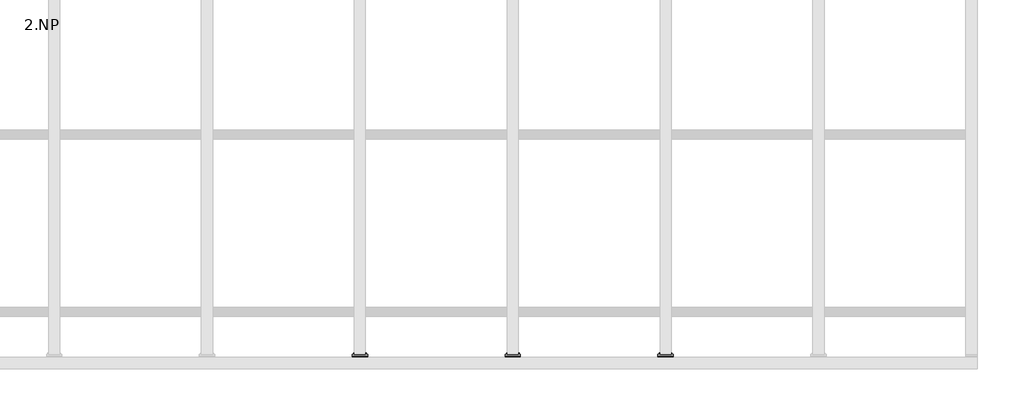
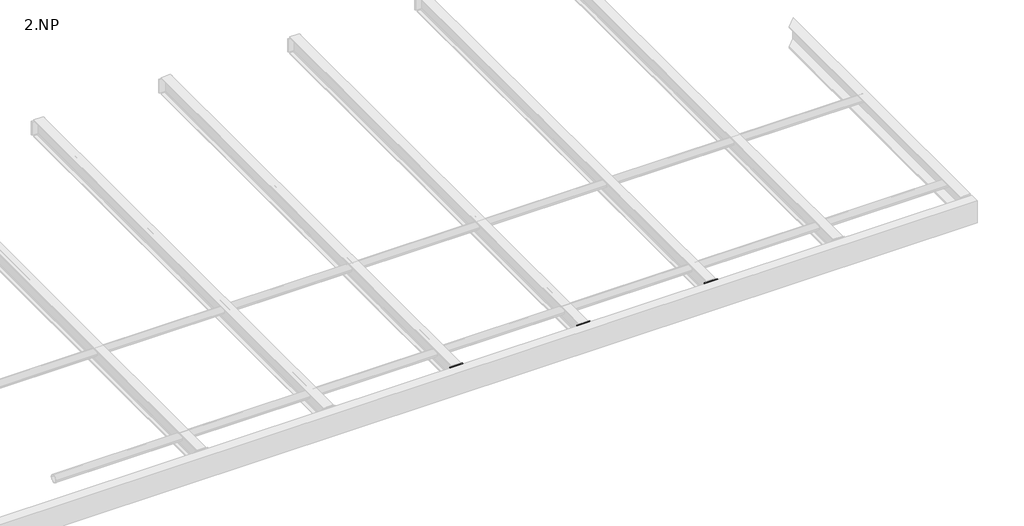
# One storey, part 7 of 18: 12 proxies.
"""IFC4 building model written with IfcOpenShell, lengths in millimetres."""

from ifc_helpers import new_model, si_unit, point, frame, frame_2d, origin, place, context, project, spatial, polyline, circle_curve, trimmed, segment, composite_curve, outline, extrude, element, save

model = new_model("IFC4")

# Units and contexts
model_context = context("Model", 3, world=origin())
ifc_project = project(units=[si_unit("LENGTHUNIT", "METRE", prefix="MILLI")], contexts=[model_context])

# Site, building, storey
site = spatial("IfcSite", under=ifc_project)
building = spatial("IfcBuilding", under=site)
storey = spatial("IfcBuildingStorey", under=building, Name="2.NP", Elevation=3000.0)

# Proxies
placement = place(None, origin())
element("IfcBuildingElementProxy", 1, Name="PLECH", ObjectType="PLECH", at=placement, inside=storey, context=model_context, shape_type="SweptSolid", body=[
    extrude(outline(polyline([(12000.0, -180.0), (12100.0, -180.0), (12100.0, -190.0), (12000.0, -190.0), (12000.0, -180.0)])), frame((0.0, 0.0, 3166.5), z_axis=(0.0, 0.0, 1.0), x_axis=(1.0, 0.0, 0.0)), (0.0, 0.0, 1.0), 127.0),
])
element("IfcBuildingElementProxy", 2, Name="PLECH", ObjectType="PLECH", at=placement, inside=storey, context=model_context, shape_type="SweptSolid", body=[
    extrude(outline(polyline([(13000.0, -180.0), (13100.0, -180.0), (13100.0, -190.0), (13000.0, -190.0), (13000.0, -180.0)])), frame((0.0, 0.0, 3166.5), z_axis=(0.0, 0.0, 1.0), x_axis=(1.0, 0.0, 0.0)), (0.0, 0.0, 1.0), 127.0),
])
element("IfcBuildingElementProxy", 3, Name="PLECH", ObjectType="PLECH", at=placement, inside=storey, context=model_context, shape_type="SweptSolid", body=[
    extrude(outline(polyline([(14000.0, -180.0), (14100.0, -180.0), (14100.0, -190.0), (14000.0, -190.0), (14000.0, -180.0)])), frame((0.0, 0.0, 3166.5), z_axis=(0.0, 0.0, 1.0), x_axis=(1.0, 0.0, 0.0)), (0.0, 0.0, 1.0), 127.0),
])
element("IfcBuildingElementProxy", 4, Name="PLECH", ObjectType="PLECH", at=placement, inside=storey, context=model_context, shape_type="SweptSolid", body=[
    extrude(outline(polyline([(12000.0, -190.0), (12100.0, -190.0), (12100.0, -200.0), (12000.0, -200.0), (12000.0, -190.0)])), frame((0.0, 0.0, 3127.5), z_axis=(0.0, 0.0, 1.0), x_axis=(1.0, 0.0, 0.0)), (0.0, 0.0, 1.0), 166.0000153),
])
element("IfcBuildingElementProxy", 5, Name="PLECH", ObjectType="PLECH", at=placement, inside=storey, context=model_context, shape_type="SweptSolid", body=[
    extrude(outline(composite_curve([segment(polyline([(-200.0, 3289.5), (-200.0, 3130.5), (-249.5, 3130.5)]), True, "CONTINUOUS"), segment(trimmed(circle_curve(frame_2d((-269.5, 3130.5)), 20.0), [point((-249.5, 3130.5))], [point((-269.5, 3150.5))], True, "CARTESIAN"), True, "CONTINUOUS"), segment(polyline([(-269.5, 3150.5), (-269.5, 3269.5)]), True, "CONTINUOUS"), segment(trimmed(circle_curve(frame_2d((-269.5, 3289.5)), 20.0), [point((-269.5, 3269.5))], [point((-249.5, 3289.5))], True, "CARTESIAN"), True, "CONTINUOUS"), segment(polyline([(-249.5, 3289.5), (-200.0, 3289.5)]), True, "CONTINUOUS")], self_intersect=False)), frame((12046.0, 0.0, 0.0), z_axis=(1.0, 0.0, 0.0), x_axis=(0.0, 1.0, 0.0)), (0.0, 0.0, 1.0), 8.0),
])
element("IfcBuildingElementProxy", 6, Name="PLECH", ObjectType="PLECH", at=placement, inside=storey, context=model_context, shape_type="SweptSolid", body=[
    extrude(outline(polyline([(13000.0, -190.0), (13100.0, -190.0), (13100.0, -200.0), (13000.0, -200.0), (13000.0, -190.0)])), frame((0.0, 0.0, 3127.5), z_axis=(0.0, 0.0, 1.0), x_axis=(1.0, 0.0, 0.0)), (0.0, 0.0, 1.0), 166.0000153),
])
element("IfcBuildingElementProxy", 7, Name="PLECH", ObjectType="PLECH", at=placement, inside=storey, context=model_context, shape_type="SweptSolid", body=[
    extrude(outline(composite_curve([segment(polyline([(-200.0, 3289.5), (-200.0, 3130.5), (-249.5, 3130.5)]), True, "CONTINUOUS"), segment(trimmed(circle_curve(frame_2d((-269.5, 3130.5)), 20.0), [point((-249.5, 3130.5))], [point((-269.5, 3150.5))], True, "CARTESIAN"), True, "CONTINUOUS"), segment(polyline([(-269.5, 3150.5), (-269.5, 3269.5)]), True, "CONTINUOUS"), segment(trimmed(circle_curve(frame_2d((-269.5, 3289.5)), 20.0), [point((-269.5, 3269.5))], [point((-249.5, 3289.5))], True, "CARTESIAN"), True, "CONTINUOUS"), segment(polyline([(-249.5, 3289.5), (-200.0, 3289.5)]), True, "CONTINUOUS")], self_intersect=False)), frame((13046.0, 0.0, 0.0), z_axis=(1.0, 0.0, 0.0), x_axis=(0.0, 1.0, 0.0)), (0.0, 0.0, 1.0), 8.0),
])
element("IfcBuildingElementProxy", 8, Name="PLECH", ObjectType="PLECH", at=placement, inside=storey, context=model_context, shape_type="SweptSolid", body=[
    extrude(outline(polyline([(14000.0, -190.0), (14100.0, -190.0), (14100.0, -200.0), (14000.0, -200.0), (14000.0, -190.0)])), frame((0.0, 0.0, 3127.5), z_axis=(0.0, 0.0, 1.0), x_axis=(1.0, 0.0, 0.0)), (0.0, 0.0, 1.0), 166.0000153),
])
element("IfcBuildingElementProxy", 9, Name="PLECH", ObjectType="PLECH", at=placement, inside=storey, context=model_context, shape_type="SweptSolid", body=[
    extrude(outline(composite_curve([segment(polyline([(-200.0, 3289.5), (-200.0, 3130.5), (-249.5, 3130.5)]), True, "CONTINUOUS"), segment(trimmed(circle_curve(frame_2d((-269.5, 3130.5)), 20.0), [point((-249.5, 3130.5))], [point((-269.5, 3150.5))], True, "CARTESIAN"), True, "CONTINUOUS"), segment(polyline([(-269.5, 3150.5), (-269.5, 3269.5)]), True, "CONTINUOUS"), segment(trimmed(circle_curve(frame_2d((-269.5, 3289.5)), 20.0), [point((-269.5, 3269.5))], [point((-249.5, 3289.5))], True, "CARTESIAN"), True, "CONTINUOUS"), segment(polyline([(-249.5, 3289.5), (-200.0, 3289.5)]), True, "CONTINUOUS")], self_intersect=False)), frame((14046.0, 0.0, 0.0), z_axis=(1.0, 0.0, 0.0), x_axis=(0.0, 1.0, 0.0)), (0.0, 0.0, 1.0), 8.0),
])
element("IfcBuildingElementProxy", 10, Name="Bolt assembly", ObjectType="Bolt assembly", at=placement, inside=storey, context=model_context, shape_type="SweptSolid", body=[
    extrude(outline(composite_curve([segment(trimmed(circle_curve(frame_2d((3260.0, 12020.0)), 6.5), [point((3260.0, 12026.5))], [point((3260.0, 12013.5))], False, "CARTESIAN"), True, "CONTINUOUS"), segment(trimmed(circle_curve(frame_2d((3260.0, 12020.0)), 6.5), [point((3260.0, 12013.5))], [point((3260.0, 12026.5))], False, "CARTESIAN"), True, "CONTINUOUS")], self_intersect=False)), frame((0.0, -199.9, 0.0), z_axis=(0.0, 1.0, 0.0), x_axis=(0.0, 0.0, 1.0)), (0.0, 0.0, 1.0), 10.0),
    extrude(outline(polyline([(3260.0, 12030.9696551), (3269.5, 12025.4848276), (3269.5, 12014.5151724), (3260.0, 12009.0303449), (3250.5, 12014.5151724), (3250.5, 12025.4848276), (3260.0, 12030.9696551)])), frame((0.0, -210.0, 0.0), z_axis=(0.0, 1.0, 0.0), x_axis=(0.0, 0.0, 1.0)), (0.0, 0.0, 1.0), 7.5),
    extrude(outline(composite_curve([segment(trimmed(circle_curve(frame_2d((3260.0, 12020.0)), 6.0), [point((3260.0, 12026.0))], [point((3260.0, 12014.0))], False, "CARTESIAN"), True, "CONTINUOUS"), segment(trimmed(circle_curve(frame_2d((3260.0, 12020.0)), 6.0), [point((3260.0, 12014.0))], [point((3260.0, 12026.0))], False, "CARTESIAN"), True, "CONTINUOUS")], self_intersect=False)), frame((0.0, -202.5, 0.0), z_axis=(0.0, 1.0, 0.0), x_axis=(0.0, 0.0, 1.0)), (0.0, 0.0, 1.0), 40.0),
    extrude(outline(composite_curve([segment(trimmed(circle_curve(frame_2d((3260.0, 12020.0)), 12.0), [point((3260.0, 12032.0))], [point((3260.0, 12008.0))], False, "CARTESIAN"), True, "CONTINUOUS"), segment(trimmed(circle_curve(frame_2d((3260.0, 12020.0)), 12.0), [point((3260.0, 12008.0))], [point((3260.0, 12032.0))], False, "CARTESIAN"), True, "CONTINUOUS")], self_intersect=False)), frame((0.0, -202.5, 0.0), z_axis=(0.0, 1.0, 0.0), x_axis=(0.0, 0.0, 1.0)), (0.0, 0.0, 1.0), 2.5),
    extrude(outline(composite_curve([segment(trimmed(circle_curve(frame_2d((3260.0, 12020.0)), 12.0), [point((3260.0, 12032.0))], [point((3260.0, 12008.0))], False, "CARTESIAN"), True, "CONTINUOUS"), segment(trimmed(circle_curve(frame_2d((3260.0, 12020.0)), 12.0), [point((3260.0, 12008.0))], [point((3260.0, 12032.0))], False, "CARTESIAN"), True, "CONTINUOUS")], self_intersect=False)), frame((0.0, -180.0, 0.0), z_axis=(0.0, 1.0, 0.0), x_axis=(0.0, 0.0, 1.0)), (0.0, 0.0, 1.0), 2.5),
    extrude(outline(polyline([(3260.0, 12030.9696551), (3269.5, 12025.4848276), (3269.5, 12014.5151724), (3260.0, 12009.0303449), (3250.5, 12014.5151724), (3250.5, 12025.4848276), (3260.0, 12030.9696551)])), frame((0.0, -177.5, 0.0), z_axis=(0.0, 1.0, 0.0), x_axis=(0.0, 0.0, 1.0)), (0.0, 0.0, 1.0), 10.0),
    extrude(outline(composite_curve([segment(trimmed(circle_curve(frame_2d((3260.0, 12020.0)), 6.5), [point((3260.0, 12026.5))], [point((3260.0, 12013.5))], False, "CARTESIAN"), True, "CONTINUOUS"), segment(trimmed(circle_curve(frame_2d((3260.0, 12020.0)), 6.5), [point((3260.0, 12013.5))], [point((3260.0, 12026.5))], False, "CARTESIAN"), True, "CONTINUOUS")], self_intersect=False)), frame((0.0, -190.1, 0.0), z_axis=(0.0, 1.0, 0.0), x_axis=(0.0, 0.0, 1.0)), (0.0, 0.0, 1.0), 10.1),
    extrude(outline(composite_curve([segment(trimmed(circle_curve(frame_2d((3260.0, 12080.0)), 6.5), [point((3260.0, 12086.5))], [point((3260.0, 12073.5))], False, "CARTESIAN"), True, "CONTINUOUS"), segment(trimmed(circle_curve(frame_2d((3260.0, 12080.0)), 6.5), [point((3260.0, 12073.5))], [point((3260.0, 12086.5))], False, "CARTESIAN"), True, "CONTINUOUS")], self_intersect=False)), frame((0.0, -199.9, 0.0), z_axis=(0.0, 1.0, 0.0), x_axis=(0.0, 0.0, 1.0)), (0.0, 0.0, 1.0), 10.0),
    extrude(outline(polyline([(3260.0, 12090.9696551), (3269.5, 12085.4848276), (3269.5, 12074.5151724), (3260.0, 12069.0303449), (3250.5, 12074.5151724), (3250.5, 12085.4848276), (3260.0, 12090.9696551)])), frame((0.0, -210.0, 0.0), z_axis=(0.0, 1.0, 0.0), x_axis=(0.0, 0.0, 1.0)), (0.0, 0.0, 1.0), 7.5),
    extrude(outline(composite_curve([segment(trimmed(circle_curve(frame_2d((3260.0, 12080.0)), 6.0), [point((3260.0, 12086.0))], [point((3260.0, 12074.0))], False, "CARTESIAN"), True, "CONTINUOUS"), segment(trimmed(circle_curve(frame_2d((3260.0, 12080.0)), 6.0), [point((3260.0, 12074.0))], [point((3260.0, 12086.0))], False, "CARTESIAN"), True, "CONTINUOUS")], self_intersect=False)), frame((0.0, -202.5, 0.0), z_axis=(0.0, 1.0, 0.0), x_axis=(0.0, 0.0, 1.0)), (0.0, 0.0, 1.0), 40.0),
    extrude(outline(composite_curve([segment(trimmed(circle_curve(frame_2d((3260.0, 12080.0)), 12.0), [point((3260.0, 12092.0))], [point((3260.0, 12068.0))], False, "CARTESIAN"), True, "CONTINUOUS"), segment(trimmed(circle_curve(frame_2d((3260.0, 12080.0)), 12.0), [point((3260.0, 12068.0))], [point((3260.0, 12092.0))], False, "CARTESIAN"), True, "CONTINUOUS")], self_intersect=False)), frame((0.0, -202.5, 0.0), z_axis=(0.0, 1.0, 0.0), x_axis=(0.0, 0.0, 1.0)), (0.0, 0.0, 1.0), 2.5),
    extrude(outline(composite_curve([segment(trimmed(circle_curve(frame_2d((3260.0, 12080.0)), 12.0), [point((3260.0, 12092.0))], [point((3260.0, 12068.0))], False, "CARTESIAN"), True, "CONTINUOUS"), segment(trimmed(circle_curve(frame_2d((3260.0, 12080.0)), 12.0), [point((3260.0, 12068.0))], [point((3260.0, 12092.0))], False, "CARTESIAN"), True, "CONTINUOUS")], self_intersect=False)), frame((0.0, -180.0, 0.0), z_axis=(0.0, 1.0, 0.0), x_axis=(0.0, 0.0, 1.0)), (0.0, 0.0, 1.0), 2.5),
    extrude(outline(polyline([(3260.0, 12090.9696551), (3269.5, 12085.4848276), (3269.5, 12074.5151724), (3260.0, 12069.0303449), (3250.5, 12074.5151724), (3250.5, 12085.4848276), (3260.0, 12090.9696551)])), frame((0.0, -177.5, 0.0), z_axis=(0.0, 1.0, 0.0), x_axis=(0.0, 0.0, 1.0)), (0.0, 0.0, 1.0), 10.0),
    extrude(outline(composite_curve([segment(trimmed(circle_curve(frame_2d((3260.0, 12080.0)), 6.5), [point((3260.0, 12086.5))], [point((3260.0, 12073.5))], False, "CARTESIAN"), True, "CONTINUOUS"), segment(trimmed(circle_curve(frame_2d((3260.0, 12080.0)), 6.5), [point((3260.0, 12073.5))], [point((3260.0, 12086.5))], False, "CARTESIAN"), True, "CONTINUOUS")], self_intersect=False)), frame((0.0, -190.1, 0.0), z_axis=(0.0, 1.0, 0.0), x_axis=(0.0, 0.0, 1.0)), (0.0, 0.0, 1.0), 10.1),
    extrude(outline(composite_curve([segment(trimmed(circle_curve(frame_2d((3200.0, 12020.0)), 6.5), [point((3200.0, 12026.5))], [point((3200.0, 12013.5))], False, "CARTESIAN"), True, "CONTINUOUS"), segment(trimmed(circle_curve(frame_2d((3200.0, 12020.0)), 6.5), [point((3200.0, 12013.5))], [point((3200.0, 12026.5))], False, "CARTESIAN"), True, "CONTINUOUS")], self_intersect=False)), frame((0.0, -199.9, 0.0), z_axis=(0.0, 1.0, 0.0), x_axis=(0.0, 0.0, 1.0)), (0.0, 0.0, 1.0), 10.0),
    extrude(outline(polyline([(3200.0, 12030.9696551), (3209.5, 12025.4848276), (3209.5, 12014.5151724), (3200.0, 12009.0303449), (3190.5, 12014.5151724), (3190.5, 12025.4848276), (3200.0, 12030.9696551)])), frame((0.0, -210.0, 0.0), z_axis=(0.0, 1.0, 0.0), x_axis=(0.0, 0.0, 1.0)), (0.0, 0.0, 1.0), 7.5),
    extrude(outline(composite_curve([segment(trimmed(circle_curve(frame_2d((3200.0, 12020.0)), 6.0), [point((3200.0, 12026.0))], [point((3200.0, 12014.0))], False, "CARTESIAN"), True, "CONTINUOUS"), segment(trimmed(circle_curve(frame_2d((3200.0, 12020.0)), 6.0), [point((3200.0, 12014.0))], [point((3200.0, 12026.0))], False, "CARTESIAN"), True, "CONTINUOUS")], self_intersect=False)), frame((0.0, -202.5, 0.0), z_axis=(0.0, 1.0, 0.0), x_axis=(0.0, 0.0, 1.0)), (0.0, 0.0, 1.0), 40.0),
    extrude(outline(composite_curve([segment(trimmed(circle_curve(frame_2d((3200.0, 12020.0)), 12.0), [point((3200.0, 12032.0))], [point((3200.0, 12008.0))], False, "CARTESIAN"), True, "CONTINUOUS"), segment(trimmed(circle_curve(frame_2d((3200.0, 12020.0)), 12.0), [point((3200.0, 12008.0))], [point((3200.0, 12032.0))], False, "CARTESIAN"), True, "CONTINUOUS")], self_intersect=False)), frame((0.0, -202.5, 0.0), z_axis=(0.0, 1.0, 0.0), x_axis=(0.0, 0.0, 1.0)), (0.0, 0.0, 1.0), 2.5),
    extrude(outline(composite_curve([segment(trimmed(circle_curve(frame_2d((3200.0, 12020.0)), 12.0), [point((3200.0, 12032.0))], [point((3200.0, 12008.0))], False, "CARTESIAN"), True, "CONTINUOUS"), segment(trimmed(circle_curve(frame_2d((3200.0, 12020.0)), 12.0), [point((3200.0, 12008.0))], [point((3200.0, 12032.0))], False, "CARTESIAN"), True, "CONTINUOUS")], self_intersect=False)), frame((0.0, -180.0, 0.0), z_axis=(0.0, 1.0, 0.0), x_axis=(0.0, 0.0, 1.0)), (0.0, 0.0, 1.0), 2.5),
    extrude(outline(polyline([(3200.0, 12030.9696551), (3209.5, 12025.4848276), (3209.5, 12014.5151724), (3200.0, 12009.0303449), (3190.5, 12014.5151724), (3190.5, 12025.4848276), (3200.0, 12030.9696551)])), frame((0.0, -177.5, 0.0), z_axis=(0.0, 1.0, 0.0), x_axis=(0.0, 0.0, 1.0)), (0.0, 0.0, 1.0), 10.0),
    extrude(outline(composite_curve([segment(trimmed(circle_curve(frame_2d((3200.0, 12020.0)), 6.5), [point((3200.0, 12026.5))], [point((3200.0, 12013.5))], False, "CARTESIAN"), True, "CONTINUOUS"), segment(trimmed(circle_curve(frame_2d((3200.0, 12020.0)), 6.5), [point((3200.0, 12013.5))], [point((3200.0, 12026.5))], False, "CARTESIAN"), True, "CONTINUOUS")], self_intersect=False)), frame((0.0, -190.1, 0.0), z_axis=(0.0, 1.0, 0.0), x_axis=(0.0, 0.0, 1.0)), (0.0, 0.0, 1.0), 10.1),
    extrude(outline(composite_curve([segment(trimmed(circle_curve(frame_2d((3200.0, 12080.0)), 6.5), [point((3200.0, 12086.5))], [point((3200.0, 12073.5))], False, "CARTESIAN"), True, "CONTINUOUS"), segment(trimmed(circle_curve(frame_2d((3200.0, 12080.0)), 6.5), [point((3200.0, 12073.5))], [point((3200.0, 12086.5))], False, "CARTESIAN"), True, "CONTINUOUS")], self_intersect=False)), frame((0.0, -199.9, 0.0), z_axis=(0.0, 1.0, 0.0), x_axis=(0.0, 0.0, 1.0)), (0.0, 0.0, 1.0), 10.0),
    extrude(outline(polyline([(3200.0, 12090.9696551), (3209.5, 12085.4848276), (3209.5, 12074.5151724), (3200.0, 12069.0303449), (3190.5, 12074.5151724), (3190.5, 12085.4848276), (3200.0, 12090.9696551)])), frame((0.0, -210.0, 0.0), z_axis=(0.0, 1.0, 0.0), x_axis=(0.0, 0.0, 1.0)), (0.0, 0.0, 1.0), 7.5),
    extrude(outline(composite_curve([segment(trimmed(circle_curve(frame_2d((3200.0, 12080.0)), 6.0), [point((3200.0, 12086.0))], [point((3200.0, 12074.0))], False, "CARTESIAN"), True, "CONTINUOUS"), segment(trimmed(circle_curve(frame_2d((3200.0, 12080.0)), 6.0), [point((3200.0, 12074.0))], [point((3200.0, 12086.0))], False, "CARTESIAN"), True, "CONTINUOUS")], self_intersect=False)), frame((0.0, -202.5, 0.0), z_axis=(0.0, 1.0, 0.0), x_axis=(0.0, 0.0, 1.0)), (0.0, 0.0, 1.0), 40.0),
    extrude(outline(composite_curve([segment(trimmed(circle_curve(frame_2d((3200.0, 12080.0)), 12.0), [point((3200.0, 12092.0))], [point((3200.0, 12068.0))], False, "CARTESIAN"), True, "CONTINUOUS"), segment(trimmed(circle_curve(frame_2d((3200.0, 12080.0)), 12.0), [point((3200.0, 12068.0))], [point((3200.0, 12092.0))], False, "CARTESIAN"), True, "CONTINUOUS")], self_intersect=False)), frame((0.0, -202.5, 0.0), z_axis=(0.0, 1.0, 0.0), x_axis=(0.0, 0.0, 1.0)), (0.0, 0.0, 1.0), 2.5),
    extrude(outline(composite_curve([segment(trimmed(circle_curve(frame_2d((3200.0, 12080.0)), 12.0), [point((3200.0, 12092.0))], [point((3200.0, 12068.0))], False, "CARTESIAN"), True, "CONTINUOUS"), segment(trimmed(circle_curve(frame_2d((3200.0, 12080.0)), 12.0), [point((3200.0, 12068.0))], [point((3200.0, 12092.0))], False, "CARTESIAN"), True, "CONTINUOUS")], self_intersect=False)), frame((0.0, -180.0, 0.0), z_axis=(0.0, 1.0, 0.0), x_axis=(0.0, 0.0, 1.0)), (0.0, 0.0, 1.0), 2.5),
    extrude(outline(polyline([(3200.0, 12090.9696551), (3209.5, 12085.4848276), (3209.5, 12074.5151724), (3200.0, 12069.0303449), (3190.5, 12074.5151724), (3190.5, 12085.4848276), (3200.0, 12090.9696551)])), frame((0.0, -177.5, 0.0), z_axis=(0.0, 1.0, 0.0), x_axis=(0.0, 0.0, 1.0)), (0.0, 0.0, 1.0), 10.0),
    extrude(outline(composite_curve([segment(trimmed(circle_curve(frame_2d((3200.0, 12080.0)), 6.5), [point((3200.0, 12086.5))], [point((3200.0, 12073.5))], False, "CARTESIAN"), True, "CONTINUOUS"), segment(trimmed(circle_curve(frame_2d((3200.0, 12080.0)), 6.5), [point((3200.0, 12073.5))], [point((3200.0, 12086.5))], False, "CARTESIAN"), True, "CONTINUOUS")], self_intersect=False)), frame((0.0, -190.1, 0.0), z_axis=(0.0, 1.0, 0.0), x_axis=(0.0, 0.0, 1.0)), (0.0, 0.0, 1.0), 10.1),
])
element("IfcBuildingElementProxy", 11, Name="Bolt assembly", ObjectType="Bolt assembly", at=placement, inside=storey, context=model_context, shape_type="SweptSolid", body=[
    extrude(outline(composite_curve([segment(trimmed(circle_curve(frame_2d((3260.0, 13020.0)), 6.5), [point((3260.0, 13026.5))], [point((3260.0, 13013.5))], False, "CARTESIAN"), True, "CONTINUOUS"), segment(trimmed(circle_curve(frame_2d((3260.0, 13020.0)), 6.5), [point((3260.0, 13013.5))], [point((3260.0, 13026.5))], False, "CARTESIAN"), True, "CONTINUOUS")], self_intersect=False)), frame((0.0, -199.9, 0.0), z_axis=(0.0, 1.0, 0.0), x_axis=(0.0, 0.0, 1.0)), (0.0, 0.0, 1.0), 10.0),
    extrude(outline(polyline([(3260.0, 13030.9696551), (3269.5, 13025.4848276), (3269.5, 13014.5151724), (3260.0, 13009.0303449), (3250.5, 13014.5151724), (3250.5, 13025.4848276), (3260.0, 13030.9696551)])), frame((0.0, -210.0, 0.0), z_axis=(0.0, 1.0, 0.0), x_axis=(0.0, 0.0, 1.0)), (0.0, 0.0, 1.0), 7.5),
    extrude(outline(composite_curve([segment(trimmed(circle_curve(frame_2d((3260.0, 13020.0)), 6.0), [point((3260.0, 13026.0))], [point((3260.0, 13014.0))], False, "CARTESIAN"), True, "CONTINUOUS"), segment(trimmed(circle_curve(frame_2d((3260.0, 13020.0)), 6.0), [point((3260.0, 13014.0))], [point((3260.0, 13026.0))], False, "CARTESIAN"), True, "CONTINUOUS")], self_intersect=False)), frame((0.0, -202.5, 0.0), z_axis=(0.0, 1.0, 0.0), x_axis=(0.0, 0.0, 1.0)), (0.0, 0.0, 1.0), 40.0),
    extrude(outline(composite_curve([segment(trimmed(circle_curve(frame_2d((3260.0, 13020.0)), 12.0), [point((3260.0, 13032.0))], [point((3260.0, 13008.0))], False, "CARTESIAN"), True, "CONTINUOUS"), segment(trimmed(circle_curve(frame_2d((3260.0, 13020.0)), 12.0), [point((3260.0, 13008.0))], [point((3260.0, 13032.0))], False, "CARTESIAN"), True, "CONTINUOUS")], self_intersect=False)), frame((0.0, -202.5, 0.0), z_axis=(0.0, 1.0, 0.0), x_axis=(0.0, 0.0, 1.0)), (0.0, 0.0, 1.0), 2.5),
    extrude(outline(composite_curve([segment(trimmed(circle_curve(frame_2d((3260.0, 13020.0)), 12.0), [point((3260.0, 13032.0))], [point((3260.0, 13008.0))], False, "CARTESIAN"), True, "CONTINUOUS"), segment(trimmed(circle_curve(frame_2d((3260.0, 13020.0)), 12.0), [point((3260.0, 13008.0))], [point((3260.0, 13032.0))], False, "CARTESIAN"), True, "CONTINUOUS")], self_intersect=False)), frame((0.0, -180.0, 0.0), z_axis=(0.0, 1.0, 0.0), x_axis=(0.0, 0.0, 1.0)), (0.0, 0.0, 1.0), 2.5),
    extrude(outline(polyline([(3260.0, 13030.9696551), (3269.5, 13025.4848276), (3269.5, 13014.5151724), (3260.0, 13009.0303449), (3250.5, 13014.5151724), (3250.5, 13025.4848276), (3260.0, 13030.9696551)])), frame((0.0, -177.5, 0.0), z_axis=(0.0, 1.0, 0.0), x_axis=(0.0, 0.0, 1.0)), (0.0, 0.0, 1.0), 10.0),
    extrude(outline(composite_curve([segment(trimmed(circle_curve(frame_2d((3260.0, 13020.0)), 6.5), [point((3260.0, 13026.5))], [point((3260.0, 13013.5))], False, "CARTESIAN"), True, "CONTINUOUS"), segment(trimmed(circle_curve(frame_2d((3260.0, 13020.0)), 6.5), [point((3260.0, 13013.5))], [point((3260.0, 13026.5))], False, "CARTESIAN"), True, "CONTINUOUS")], self_intersect=False)), frame((0.0, -190.1, 0.0), z_axis=(0.0, 1.0, 0.0), x_axis=(0.0, 0.0, 1.0)), (0.0, 0.0, 1.0), 10.1),
    extrude(outline(composite_curve([segment(trimmed(circle_curve(frame_2d((3260.0, 13080.0)), 6.5), [point((3260.0, 13086.5))], [point((3260.0, 13073.5))], False, "CARTESIAN"), True, "CONTINUOUS"), segment(trimmed(circle_curve(frame_2d((3260.0, 13080.0)), 6.5), [point((3260.0, 13073.5))], [point((3260.0, 13086.5))], False, "CARTESIAN"), True, "CONTINUOUS")], self_intersect=False)), frame((0.0, -199.9, 0.0), z_axis=(0.0, 1.0, 0.0), x_axis=(0.0, 0.0, 1.0)), (0.0, 0.0, 1.0), 10.0),
    extrude(outline(polyline([(3260.0, 13090.9696551), (3269.5, 13085.4848276), (3269.5, 13074.5151724), (3260.0, 13069.0303449), (3250.5, 13074.5151724), (3250.5, 13085.4848276), (3260.0, 13090.9696551)])), frame((0.0, -210.0, 0.0), z_axis=(0.0, 1.0, 0.0), x_axis=(0.0, 0.0, 1.0)), (0.0, 0.0, 1.0), 7.5),
    extrude(outline(composite_curve([segment(trimmed(circle_curve(frame_2d((3260.0, 13080.0)), 6.0), [point((3260.0, 13086.0))], [point((3260.0, 13074.0))], False, "CARTESIAN"), True, "CONTINUOUS"), segment(trimmed(circle_curve(frame_2d((3260.0, 13080.0)), 6.0), [point((3260.0, 13074.0))], [point((3260.0, 13086.0))], False, "CARTESIAN"), True, "CONTINUOUS")], self_intersect=False)), frame((0.0, -202.5, 0.0), z_axis=(0.0, 1.0, 0.0), x_axis=(0.0, 0.0, 1.0)), (0.0, 0.0, 1.0), 40.0),
    extrude(outline(composite_curve([segment(trimmed(circle_curve(frame_2d((3260.0, 13080.0)), 12.0), [point((3260.0, 13092.0))], [point((3260.0, 13068.0))], False, "CARTESIAN"), True, "CONTINUOUS"), segment(trimmed(circle_curve(frame_2d((3260.0, 13080.0)), 12.0), [point((3260.0, 13068.0))], [point((3260.0, 13092.0))], False, "CARTESIAN"), True, "CONTINUOUS")], self_intersect=False)), frame((0.0, -202.5, 0.0), z_axis=(0.0, 1.0, 0.0), x_axis=(0.0, 0.0, 1.0)), (0.0, 0.0, 1.0), 2.5),
    extrude(outline(composite_curve([segment(trimmed(circle_curve(frame_2d((3260.0, 13080.0)), 12.0), [point((3260.0, 13092.0))], [point((3260.0, 13068.0))], False, "CARTESIAN"), True, "CONTINUOUS"), segment(trimmed(circle_curve(frame_2d((3260.0, 13080.0)), 12.0), [point((3260.0, 13068.0))], [point((3260.0, 13092.0))], False, "CARTESIAN"), True, "CONTINUOUS")], self_intersect=False)), frame((0.0, -180.0, 0.0), z_axis=(0.0, 1.0, 0.0), x_axis=(0.0, 0.0, 1.0)), (0.0, 0.0, 1.0), 2.5),
    extrude(outline(polyline([(3260.0, 13090.9696551), (3269.5, 13085.4848276), (3269.5, 13074.5151724), (3260.0, 13069.0303449), (3250.5, 13074.5151724), (3250.5, 13085.4848276), (3260.0, 13090.9696551)])), frame((0.0, -177.5, 0.0), z_axis=(0.0, 1.0, 0.0), x_axis=(0.0, 0.0, 1.0)), (0.0, 0.0, 1.0), 10.0),
    extrude(outline(composite_curve([segment(trimmed(circle_curve(frame_2d((3260.0, 13080.0)), 6.5), [point((3260.0, 13086.5))], [point((3260.0, 13073.5))], False, "CARTESIAN"), True, "CONTINUOUS"), segment(trimmed(circle_curve(frame_2d((3260.0, 13080.0)), 6.5), [point((3260.0, 13073.5))], [point((3260.0, 13086.5))], False, "CARTESIAN"), True, "CONTINUOUS")], self_intersect=False)), frame((0.0, -190.1, 0.0), z_axis=(0.0, 1.0, 0.0), x_axis=(0.0, 0.0, 1.0)), (0.0, 0.0, 1.0), 10.1),
    extrude(outline(composite_curve([segment(trimmed(circle_curve(frame_2d((3200.0, 13020.0)), 6.5), [point((3200.0, 13026.5))], [point((3200.0, 13013.5))], False, "CARTESIAN"), True, "CONTINUOUS"), segment(trimmed(circle_curve(frame_2d((3200.0, 13020.0)), 6.5), [point((3200.0, 13013.5))], [point((3200.0, 13026.5))], False, "CARTESIAN"), True, "CONTINUOUS")], self_intersect=False)), frame((0.0, -199.9, 0.0), z_axis=(0.0, 1.0, 0.0), x_axis=(0.0, 0.0, 1.0)), (0.0, 0.0, 1.0), 10.0),
    extrude(outline(polyline([(3200.0, 13030.9696551), (3209.5, 13025.4848276), (3209.5, 13014.5151724), (3200.0, 13009.0303449), (3190.5, 13014.5151724), (3190.5, 13025.4848276), (3200.0, 13030.9696551)])), frame((0.0, -210.0, 0.0), z_axis=(0.0, 1.0, 0.0), x_axis=(0.0, 0.0, 1.0)), (0.0, 0.0, 1.0), 7.5),
    extrude(outline(composite_curve([segment(trimmed(circle_curve(frame_2d((3200.0, 13020.0)), 6.0), [point((3200.0, 13026.0))], [point((3200.0, 13014.0))], False, "CARTESIAN"), True, "CONTINUOUS"), segment(trimmed(circle_curve(frame_2d((3200.0, 13020.0)), 6.0), [point((3200.0, 13014.0))], [point((3200.0, 13026.0))], False, "CARTESIAN"), True, "CONTINUOUS")], self_intersect=False)), frame((0.0, -202.5, 0.0), z_axis=(0.0, 1.0, 0.0), x_axis=(0.0, 0.0, 1.0)), (0.0, 0.0, 1.0), 40.0),
    extrude(outline(composite_curve([segment(trimmed(circle_curve(frame_2d((3200.0, 13020.0)), 12.0), [point((3200.0, 13032.0))], [point((3200.0, 13008.0))], False, "CARTESIAN"), True, "CONTINUOUS"), segment(trimmed(circle_curve(frame_2d((3200.0, 13020.0)), 12.0), [point((3200.0, 13008.0))], [point((3200.0, 13032.0))], False, "CARTESIAN"), True, "CONTINUOUS")], self_intersect=False)), frame((0.0, -202.5, 0.0), z_axis=(0.0, 1.0, 0.0), x_axis=(0.0, 0.0, 1.0)), (0.0, 0.0, 1.0), 2.5),
    extrude(outline(composite_curve([segment(trimmed(circle_curve(frame_2d((3200.0, 13020.0)), 12.0), [point((3200.0, 13032.0))], [point((3200.0, 13008.0))], False, "CARTESIAN"), True, "CONTINUOUS"), segment(trimmed(circle_curve(frame_2d((3200.0, 13020.0)), 12.0), [point((3200.0, 13008.0))], [point((3200.0, 13032.0))], False, "CARTESIAN"), True, "CONTINUOUS")], self_intersect=False)), frame((0.0, -180.0, 0.0), z_axis=(0.0, 1.0, 0.0), x_axis=(0.0, 0.0, 1.0)), (0.0, 0.0, 1.0), 2.5),
    extrude(outline(polyline([(3200.0, 13030.9696551), (3209.5, 13025.4848276), (3209.5, 13014.5151724), (3200.0, 13009.0303449), (3190.5, 13014.5151724), (3190.5, 13025.4848276), (3200.0, 13030.9696551)])), frame((0.0, -177.5, 0.0), z_axis=(0.0, 1.0, 0.0), x_axis=(0.0, 0.0, 1.0)), (0.0, 0.0, 1.0), 10.0),
    extrude(outline(composite_curve([segment(trimmed(circle_curve(frame_2d((3200.0, 13020.0)), 6.5), [point((3200.0, 13026.5))], [point((3200.0, 13013.5))], False, "CARTESIAN"), True, "CONTINUOUS"), segment(trimmed(circle_curve(frame_2d((3200.0, 13020.0)), 6.5), [point((3200.0, 13013.5))], [point((3200.0, 13026.5))], False, "CARTESIAN"), True, "CONTINUOUS")], self_intersect=False)), frame((0.0, -190.1, 0.0), z_axis=(0.0, 1.0, 0.0), x_axis=(0.0, 0.0, 1.0)), (0.0, 0.0, 1.0), 10.1),
    extrude(outline(composite_curve([segment(trimmed(circle_curve(frame_2d((3200.0, 13080.0)), 6.5), [point((3200.0, 13086.5))], [point((3200.0, 13073.5))], False, "CARTESIAN"), True, "CONTINUOUS"), segment(trimmed(circle_curve(frame_2d((3200.0, 13080.0)), 6.5), [point((3200.0, 13073.5))], [point((3200.0, 13086.5))], False, "CARTESIAN"), True, "CONTINUOUS")], self_intersect=False)), frame((0.0, -199.9, 0.0), z_axis=(0.0, 1.0, 0.0), x_axis=(0.0, 0.0, 1.0)), (0.0, 0.0, 1.0), 10.0),
    extrude(outline(polyline([(3200.0, 13090.9696551), (3209.5, 13085.4848276), (3209.5, 13074.5151724), (3200.0, 13069.0303449), (3190.5, 13074.5151724), (3190.5, 13085.4848276), (3200.0, 13090.9696551)])), frame((0.0, -210.0, 0.0), z_axis=(0.0, 1.0, 0.0), x_axis=(0.0, 0.0, 1.0)), (0.0, 0.0, 1.0), 7.5),
    extrude(outline(composite_curve([segment(trimmed(circle_curve(frame_2d((3200.0, 13080.0)), 6.0), [point((3200.0, 13086.0))], [point((3200.0, 13074.0))], False, "CARTESIAN"), True, "CONTINUOUS"), segment(trimmed(circle_curve(frame_2d((3200.0, 13080.0)), 6.0), [point((3200.0, 13074.0))], [point((3200.0, 13086.0))], False, "CARTESIAN"), True, "CONTINUOUS")], self_intersect=False)), frame((0.0, -202.5, 0.0), z_axis=(0.0, 1.0, 0.0), x_axis=(0.0, 0.0, 1.0)), (0.0, 0.0, 1.0), 40.0),
    extrude(outline(composite_curve([segment(trimmed(circle_curve(frame_2d((3200.0, 13080.0)), 12.0), [point((3200.0, 13092.0))], [point((3200.0, 13068.0))], False, "CARTESIAN"), True, "CONTINUOUS"), segment(trimmed(circle_curve(frame_2d((3200.0, 13080.0)), 12.0), [point((3200.0, 13068.0))], [point((3200.0, 13092.0))], False, "CARTESIAN"), True, "CONTINUOUS")], self_intersect=False)), frame((0.0, -202.5, 0.0), z_axis=(0.0, 1.0, 0.0), x_axis=(0.0, 0.0, 1.0)), (0.0, 0.0, 1.0), 2.5),
    extrude(outline(composite_curve([segment(trimmed(circle_curve(frame_2d((3200.0, 13080.0)), 12.0), [point((3200.0, 13092.0))], [point((3200.0, 13068.0))], False, "CARTESIAN"), True, "CONTINUOUS"), segment(trimmed(circle_curve(frame_2d((3200.0, 13080.0)), 12.0), [point((3200.0, 13068.0))], [point((3200.0, 13092.0))], False, "CARTESIAN"), True, "CONTINUOUS")], self_intersect=False)), frame((0.0, -180.0, 0.0), z_axis=(0.0, 1.0, 0.0), x_axis=(0.0, 0.0, 1.0)), (0.0, 0.0, 1.0), 2.5),
    extrude(outline(polyline([(3200.0, 13090.9696551), (3209.5, 13085.4848276), (3209.5, 13074.5151724), (3200.0, 13069.0303449), (3190.5, 13074.5151724), (3190.5, 13085.4848276), (3200.0, 13090.9696551)])), frame((0.0, -177.5, 0.0), z_axis=(0.0, 1.0, 0.0), x_axis=(0.0, 0.0, 1.0)), (0.0, 0.0, 1.0), 10.0),
    extrude(outline(composite_curve([segment(trimmed(circle_curve(frame_2d((3200.0, 13080.0)), 6.5), [point((3200.0, 13086.5))], [point((3200.0, 13073.5))], False, "CARTESIAN"), True, "CONTINUOUS"), segment(trimmed(circle_curve(frame_2d((3200.0, 13080.0)), 6.5), [point((3200.0, 13073.5))], [point((3200.0, 13086.5))], False, "CARTESIAN"), True, "CONTINUOUS")], self_intersect=False)), frame((0.0, -190.1, 0.0), z_axis=(0.0, 1.0, 0.0), x_axis=(0.0, 0.0, 1.0)), (0.0, 0.0, 1.0), 10.1),
])
element("IfcBuildingElementProxy", 12, Name="Bolt assembly", ObjectType="Bolt assembly", at=placement, inside=storey, context=model_context, shape_type="SweptSolid", body=[
    extrude(outline(composite_curve([segment(trimmed(circle_curve(frame_2d((3260.0, 14020.0)), 6.5), [point((3260.0, 14026.5))], [point((3260.0, 14013.5))], False, "CARTESIAN"), True, "CONTINUOUS"), segment(trimmed(circle_curve(frame_2d((3260.0, 14020.0)), 6.5), [point((3260.0, 14013.5))], [point((3260.0, 14026.5))], False, "CARTESIAN"), True, "CONTINUOUS")], self_intersect=False)), frame((0.0, -199.9, 0.0), z_axis=(0.0, 1.0, 0.0), x_axis=(0.0, 0.0, 1.0)), (0.0, 0.0, 1.0), 10.0),
    extrude(outline(polyline([(3260.0, 14030.9696551), (3269.5, 14025.4848276), (3269.5, 14014.5151724), (3260.0, 14009.0303449), (3250.5, 14014.5151724), (3250.5, 14025.4848276), (3260.0, 14030.9696551)])), frame((0.0, -210.0, 0.0), z_axis=(0.0, 1.0, 0.0), x_axis=(0.0, 0.0, 1.0)), (0.0, 0.0, 1.0), 7.5),
    extrude(outline(composite_curve([segment(trimmed(circle_curve(frame_2d((3260.0, 14020.0)), 6.0), [point((3260.0, 14026.0))], [point((3260.0, 14014.0))], False, "CARTESIAN"), True, "CONTINUOUS"), segment(trimmed(circle_curve(frame_2d((3260.0, 14020.0)), 6.0), [point((3260.0, 14014.0))], [point((3260.0, 14026.0))], False, "CARTESIAN"), True, "CONTINUOUS")], self_intersect=False)), frame((0.0, -202.5, 0.0), z_axis=(0.0, 1.0, 0.0), x_axis=(0.0, 0.0, 1.0)), (0.0, 0.0, 1.0), 40.0),
    extrude(outline(composite_curve([segment(trimmed(circle_curve(frame_2d((3260.0, 14020.0)), 12.0), [point((3260.0, 14032.0))], [point((3260.0, 14008.0))], False, "CARTESIAN"), True, "CONTINUOUS"), segment(trimmed(circle_curve(frame_2d((3260.0, 14020.0)), 12.0), [point((3260.0, 14008.0))], [point((3260.0, 14032.0))], False, "CARTESIAN"), True, "CONTINUOUS")], self_intersect=False)), frame((0.0, -202.5, 0.0), z_axis=(0.0, 1.0, 0.0), x_axis=(0.0, 0.0, 1.0)), (0.0, 0.0, 1.0), 2.5),
    extrude(outline(composite_curve([segment(trimmed(circle_curve(frame_2d((3260.0, 14020.0)), 12.0), [point((3260.0, 14032.0))], [point((3260.0, 14008.0))], False, "CARTESIAN"), True, "CONTINUOUS"), segment(trimmed(circle_curve(frame_2d((3260.0, 14020.0)), 12.0), [point((3260.0, 14008.0))], [point((3260.0, 14032.0))], False, "CARTESIAN"), True, "CONTINUOUS")], self_intersect=False)), frame((0.0, -180.0, 0.0), z_axis=(0.0, 1.0, 0.0), x_axis=(0.0, 0.0, 1.0)), (0.0, 0.0, 1.0), 2.5),
    extrude(outline(polyline([(3260.0, 14030.9696551), (3269.5, 14025.4848276), (3269.5, 14014.5151724), (3260.0, 14009.0303449), (3250.5, 14014.5151724), (3250.5, 14025.4848276), (3260.0, 14030.9696551)])), frame((0.0, -177.5, 0.0), z_axis=(0.0, 1.0, 0.0), x_axis=(0.0, 0.0, 1.0)), (0.0, 0.0, 1.0), 10.0),
    extrude(outline(composite_curve([segment(trimmed(circle_curve(frame_2d((3260.0, 14020.0)), 6.5), [point((3260.0, 14026.5))], [point((3260.0, 14013.5))], False, "CARTESIAN"), True, "CONTINUOUS"), segment(trimmed(circle_curve(frame_2d((3260.0, 14020.0)), 6.5), [point((3260.0, 14013.5))], [point((3260.0, 14026.5))], False, "CARTESIAN"), True, "CONTINUOUS")], self_intersect=False)), frame((0.0, -190.1, 0.0), z_axis=(0.0, 1.0, 0.0), x_axis=(0.0, 0.0, 1.0)), (0.0, 0.0, 1.0), 10.1),
    extrude(outline(composite_curve([segment(trimmed(circle_curve(frame_2d((3260.0, 14080.0)), 6.5), [point((3260.0, 14086.5))], [point((3260.0, 14073.5))], False, "CARTESIAN"), True, "CONTINUOUS"), segment(trimmed(circle_curve(frame_2d((3260.0, 14080.0)), 6.5), [point((3260.0, 14073.5))], [point((3260.0, 14086.5))], False, "CARTESIAN"), True, "CONTINUOUS")], self_intersect=False)), frame((0.0, -199.9, 0.0), z_axis=(0.0, 1.0, 0.0), x_axis=(0.0, 0.0, 1.0)), (0.0, 0.0, 1.0), 10.0),
    extrude(outline(polyline([(3260.0, 14090.9696551), (3269.5, 14085.4848276), (3269.5, 14074.5151724), (3260.0, 14069.0303449), (3250.5, 14074.5151724), (3250.5, 14085.4848276), (3260.0, 14090.9696551)])), frame((0.0, -210.0, 0.0), z_axis=(0.0, 1.0, 0.0), x_axis=(0.0, 0.0, 1.0)), (0.0, 0.0, 1.0), 7.5),
    extrude(outline(composite_curve([segment(trimmed(circle_curve(frame_2d((3260.0, 14080.0)), 6.0), [point((3260.0, 14086.0))], [point((3260.0, 14074.0))], False, "CARTESIAN"), True, "CONTINUOUS"), segment(trimmed(circle_curve(frame_2d((3260.0, 14080.0)), 6.0), [point((3260.0, 14074.0))], [point((3260.0, 14086.0))], False, "CARTESIAN"), True, "CONTINUOUS")], self_intersect=False)), frame((0.0, -202.5, 0.0), z_axis=(0.0, 1.0, 0.0), x_axis=(0.0, 0.0, 1.0)), (0.0, 0.0, 1.0), 40.0),
    extrude(outline(composite_curve([segment(trimmed(circle_curve(frame_2d((3260.0, 14080.0)), 12.0), [point((3260.0, 14092.0))], [point((3260.0, 14068.0))], False, "CARTESIAN"), True, "CONTINUOUS"), segment(trimmed(circle_curve(frame_2d((3260.0, 14080.0)), 12.0), [point((3260.0, 14068.0))], [point((3260.0, 14092.0))], False, "CARTESIAN"), True, "CONTINUOUS")], self_intersect=False)), frame((0.0, -202.5, 0.0), z_axis=(0.0, 1.0, 0.0), x_axis=(0.0, 0.0, 1.0)), (0.0, 0.0, 1.0), 2.5),
    extrude(outline(composite_curve([segment(trimmed(circle_curve(frame_2d((3260.0, 14080.0)), 12.0), [point((3260.0, 14092.0))], [point((3260.0, 14068.0))], False, "CARTESIAN"), True, "CONTINUOUS"), segment(trimmed(circle_curve(frame_2d((3260.0, 14080.0)), 12.0), [point((3260.0, 14068.0))], [point((3260.0, 14092.0))], False, "CARTESIAN"), True, "CONTINUOUS")], self_intersect=False)), frame((0.0, -180.0, 0.0), z_axis=(0.0, 1.0, 0.0), x_axis=(0.0, 0.0, 1.0)), (0.0, 0.0, 1.0), 2.5),
    extrude(outline(polyline([(3260.0, 14090.9696551), (3269.5, 14085.4848276), (3269.5, 14074.5151724), (3260.0, 14069.0303449), (3250.5, 14074.5151724), (3250.5, 14085.4848276), (3260.0, 14090.9696551)])), frame((0.0, -177.5, 0.0), z_axis=(0.0, 1.0, 0.0), x_axis=(0.0, 0.0, 1.0)), (0.0, 0.0, 1.0), 10.0),
    extrude(outline(composite_curve([segment(trimmed(circle_curve(frame_2d((3260.0, 14080.0)), 6.5), [point((3260.0, 14086.5))], [point((3260.0, 14073.5))], False, "CARTESIAN"), True, "CONTINUOUS"), segment(trimmed(circle_curve(frame_2d((3260.0, 14080.0)), 6.5), [point((3260.0, 14073.5))], [point((3260.0, 14086.5))], False, "CARTESIAN"), True, "CONTINUOUS")], self_intersect=False)), frame((0.0, -190.1, 0.0), z_axis=(0.0, 1.0, 0.0), x_axis=(0.0, 0.0, 1.0)), (0.0, 0.0, 1.0), 10.1),
    extrude(outline(composite_curve([segment(trimmed(circle_curve(frame_2d((3200.0, 14020.0)), 6.5), [point((3200.0, 14026.5))], [point((3200.0, 14013.5))], False, "CARTESIAN"), True, "CONTINUOUS"), segment(trimmed(circle_curve(frame_2d((3200.0, 14020.0)), 6.5), [point((3200.0, 14013.5))], [point((3200.0, 14026.5))], False, "CARTESIAN"), True, "CONTINUOUS")], self_intersect=False)), frame((0.0, -199.9, 0.0), z_axis=(0.0, 1.0, 0.0), x_axis=(0.0, 0.0, 1.0)), (0.0, 0.0, 1.0), 10.0),
    extrude(outline(polyline([(3200.0, 14030.9696551), (3209.5, 14025.4848276), (3209.5, 14014.5151724), (3200.0, 14009.0303449), (3190.5, 14014.5151724), (3190.5, 14025.4848276), (3200.0, 14030.9696551)])), frame((0.0, -210.0, 0.0), z_axis=(0.0, 1.0, 0.0), x_axis=(0.0, 0.0, 1.0)), (0.0, 0.0, 1.0), 7.5),
    extrude(outline(composite_curve([segment(trimmed(circle_curve(frame_2d((3200.0, 14020.0)), 6.0), [point((3200.0, 14026.0))], [point((3200.0, 14014.0))], False, "CARTESIAN"), True, "CONTINUOUS"), segment(trimmed(circle_curve(frame_2d((3200.0, 14020.0)), 6.0), [point((3200.0, 14014.0))], [point((3200.0, 14026.0))], False, "CARTESIAN"), True, "CONTINUOUS")], self_intersect=False)), frame((0.0, -202.5, 0.0), z_axis=(0.0, 1.0, 0.0), x_axis=(0.0, 0.0, 1.0)), (0.0, 0.0, 1.0), 40.0),
    extrude(outline(composite_curve([segment(trimmed(circle_curve(frame_2d((3200.0, 14020.0)), 12.0), [point((3200.0, 14032.0))], [point((3200.0, 14008.0))], False, "CARTESIAN"), True, "CONTINUOUS"), segment(trimmed(circle_curve(frame_2d((3200.0, 14020.0)), 12.0), [point((3200.0, 14008.0))], [point((3200.0, 14032.0))], False, "CARTESIAN"), True, "CONTINUOUS")], self_intersect=False)), frame((0.0, -202.5, 0.0), z_axis=(0.0, 1.0, 0.0), x_axis=(0.0, 0.0, 1.0)), (0.0, 0.0, 1.0), 2.5),
    extrude(outline(composite_curve([segment(trimmed(circle_curve(frame_2d((3200.0, 14020.0)), 12.0), [point((3200.0, 14032.0))], [point((3200.0, 14008.0))], False, "CARTESIAN"), True, "CONTINUOUS"), segment(trimmed(circle_curve(frame_2d((3200.0, 14020.0)), 12.0), [point((3200.0, 14008.0))], [point((3200.0, 14032.0))], False, "CARTESIAN"), True, "CONTINUOUS")], self_intersect=False)), frame((0.0, -180.0, 0.0), z_axis=(0.0, 1.0, 0.0), x_axis=(0.0, 0.0, 1.0)), (0.0, 0.0, 1.0), 2.5),
    extrude(outline(polyline([(3200.0, 14030.9696551), (3209.5, 14025.4848276), (3209.5, 14014.5151724), (3200.0, 14009.0303449), (3190.5, 14014.5151724), (3190.5, 14025.4848276), (3200.0, 14030.9696551)])), frame((0.0, -177.5, 0.0), z_axis=(0.0, 1.0, 0.0), x_axis=(0.0, 0.0, 1.0)), (0.0, 0.0, 1.0), 10.0),
    extrude(outline(composite_curve([segment(trimmed(circle_curve(frame_2d((3200.0, 14020.0)), 6.5), [point((3200.0, 14026.5))], [point((3200.0, 14013.5))], False, "CARTESIAN"), True, "CONTINUOUS"), segment(trimmed(circle_curve(frame_2d((3200.0, 14020.0)), 6.5), [point((3200.0, 14013.5))], [point((3200.0, 14026.5))], False, "CARTESIAN"), True, "CONTINUOUS")], self_intersect=False)), frame((0.0, -190.1, 0.0), z_axis=(0.0, 1.0, 0.0), x_axis=(0.0, 0.0, 1.0)), (0.0, 0.0, 1.0), 10.1),
    extrude(outline(composite_curve([segment(trimmed(circle_curve(frame_2d((3200.0, 14080.0)), 6.5), [point((3200.0, 14086.5))], [point((3200.0, 14073.5))], False, "CARTESIAN"), True, "CONTINUOUS"), segment(trimmed(circle_curve(frame_2d((3200.0, 14080.0)), 6.5), [point((3200.0, 14073.5))], [point((3200.0, 14086.5))], False, "CARTESIAN"), True, "CONTINUOUS")], self_intersect=False)), frame((0.0, -199.9, 0.0), z_axis=(0.0, 1.0, 0.0), x_axis=(0.0, 0.0, 1.0)), (0.0, 0.0, 1.0), 10.0),
    extrude(outline(polyline([(3200.0, 14090.9696551), (3209.5, 14085.4848276), (3209.5, 14074.5151724), (3200.0, 14069.0303449), (3190.5, 14074.5151724), (3190.5, 14085.4848276), (3200.0, 14090.9696551)])), frame((0.0, -210.0, 0.0), z_axis=(0.0, 1.0, 0.0), x_axis=(0.0, 0.0, 1.0)), (0.0, 0.0, 1.0), 7.5),
    extrude(outline(composite_curve([segment(trimmed(circle_curve(frame_2d((3200.0, 14080.0)), 6.0), [point((3200.0, 14086.0))], [point((3200.0, 14074.0))], False, "CARTESIAN"), True, "CONTINUOUS"), segment(trimmed(circle_curve(frame_2d((3200.0, 14080.0)), 6.0), [point((3200.0, 14074.0))], [point((3200.0, 14086.0))], False, "CARTESIAN"), True, "CONTINUOUS")], self_intersect=False)), frame((0.0, -202.5, 0.0), z_axis=(0.0, 1.0, 0.0), x_axis=(0.0, 0.0, 1.0)), (0.0, 0.0, 1.0), 40.0),
    extrude(outline(composite_curve([segment(trimmed(circle_curve(frame_2d((3200.0, 14080.0)), 12.0), [point((3200.0, 14092.0))], [point((3200.0, 14068.0))], False, "CARTESIAN"), True, "CONTINUOUS"), segment(trimmed(circle_curve(frame_2d((3200.0, 14080.0)), 12.0), [point((3200.0, 14068.0))], [point((3200.0, 14092.0))], False, "CARTESIAN"), True, "CONTINUOUS")], self_intersect=False)), frame((0.0, -202.5, 0.0), z_axis=(0.0, 1.0, 0.0), x_axis=(0.0, 0.0, 1.0)), (0.0, 0.0, 1.0), 2.5),
    extrude(outline(composite_curve([segment(trimmed(circle_curve(frame_2d((3200.0, 14080.0)), 12.0), [point((3200.0, 14092.0))], [point((3200.0, 14068.0))], False, "CARTESIAN"), True, "CONTINUOUS"), segment(trimmed(circle_curve(frame_2d((3200.0, 14080.0)), 12.0), [point((3200.0, 14068.0))], [point((3200.0, 14092.0))], False, "CARTESIAN"), True, "CONTINUOUS")], self_intersect=False)), frame((0.0, -180.0, 0.0), z_axis=(0.0, 1.0, 0.0), x_axis=(0.0, 0.0, 1.0)), (0.0, 0.0, 1.0), 2.5),
    extrude(outline(polyline([(3200.0, 14090.9696551), (3209.5, 14085.4848276), (3209.5, 14074.5151724), (3200.0, 14069.0303449), (3190.5, 14074.5151724), (3190.5, 14085.4848276), (3200.0, 14090.9696551)])), frame((0.0, -177.5, 0.0), z_axis=(0.0, 1.0, 0.0), x_axis=(0.0, 0.0, 1.0)), (0.0, 0.0, 1.0), 10.0),
    extrude(outline(composite_curve([segment(trimmed(circle_curve(frame_2d((3200.0, 14080.0)), 6.5), [point((3200.0, 14086.5))], [point((3200.0, 14073.5))], False, "CARTESIAN"), True, "CONTINUOUS"), segment(trimmed(circle_curve(frame_2d((3200.0, 14080.0)), 6.5), [point((3200.0, 14073.5))], [point((3200.0, 14086.5))], False, "CARTESIAN"), True, "CONTINUOUS")], self_intersect=False)), frame((0.0, -190.1, 0.0), z_axis=(0.0, 1.0, 0.0), x_axis=(0.0, 0.0, 1.0)), (0.0, 0.0, 1.0), 10.1),
])

save(model, "model.ifc")
